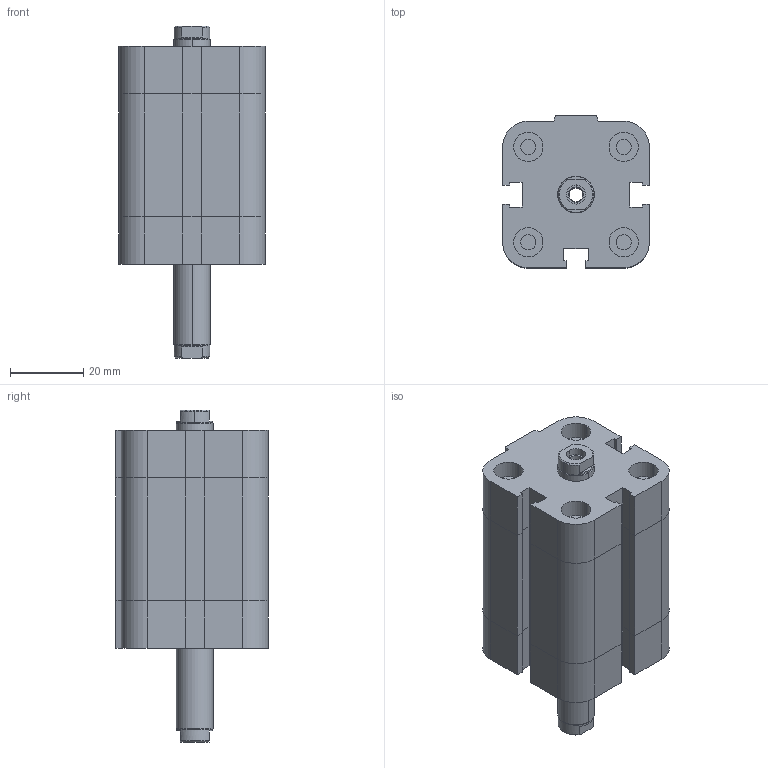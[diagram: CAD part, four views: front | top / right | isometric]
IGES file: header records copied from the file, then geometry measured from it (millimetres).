
Global section: file name: No Iges File Name specified; native system: Autodesk Inventor 2009; preprocessor: AutoDesk Inventor Iges Exporter R2009; author: maffial1; date: 20090420.201158; units: millimetre
Bounding box: 40 x 41.5 x 90.5 mm (x, y, z)
Volume: 85402.6 mm3; surface area: 22828.2 mm2
Topology: 2 solids, 2 shells, 204 faces, 456 edges, 278 vertices
Faces by surface type: plane 114, bspline 44, revolution 20, cylinder 18, cone 8
